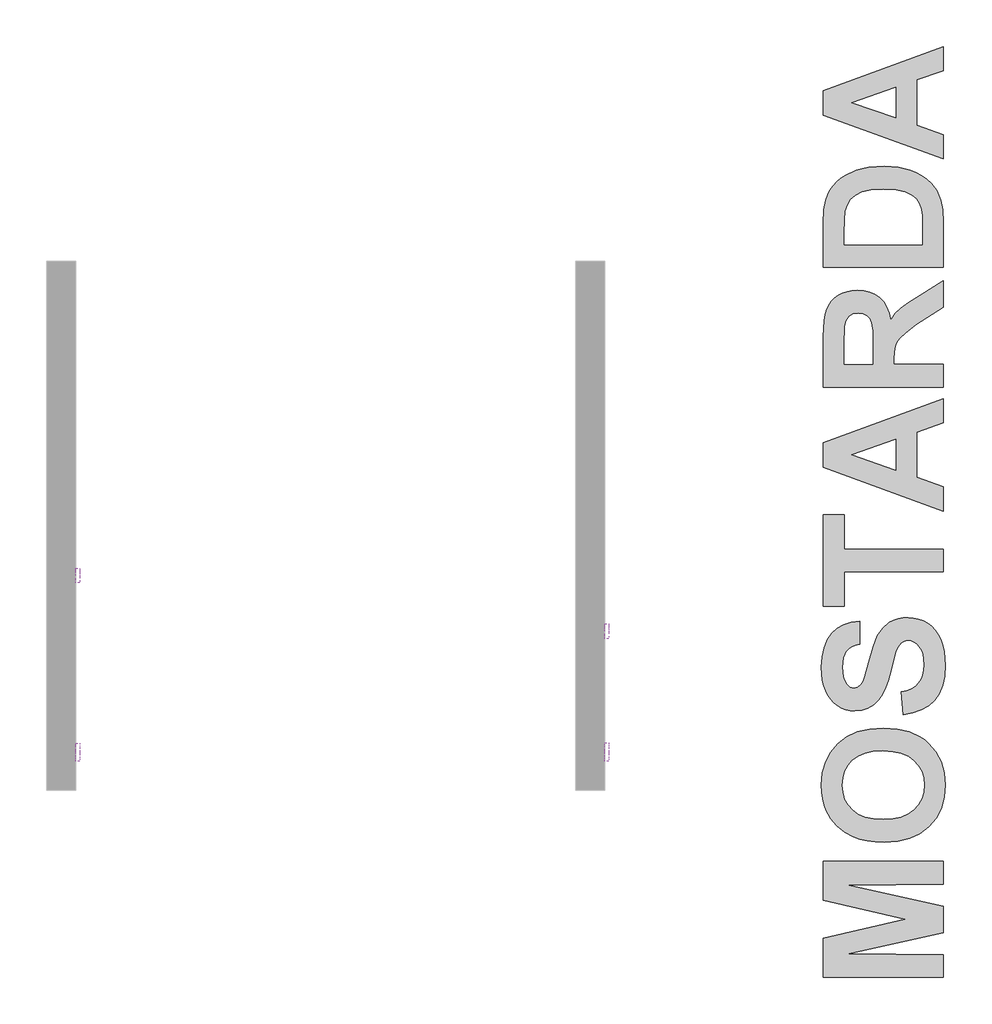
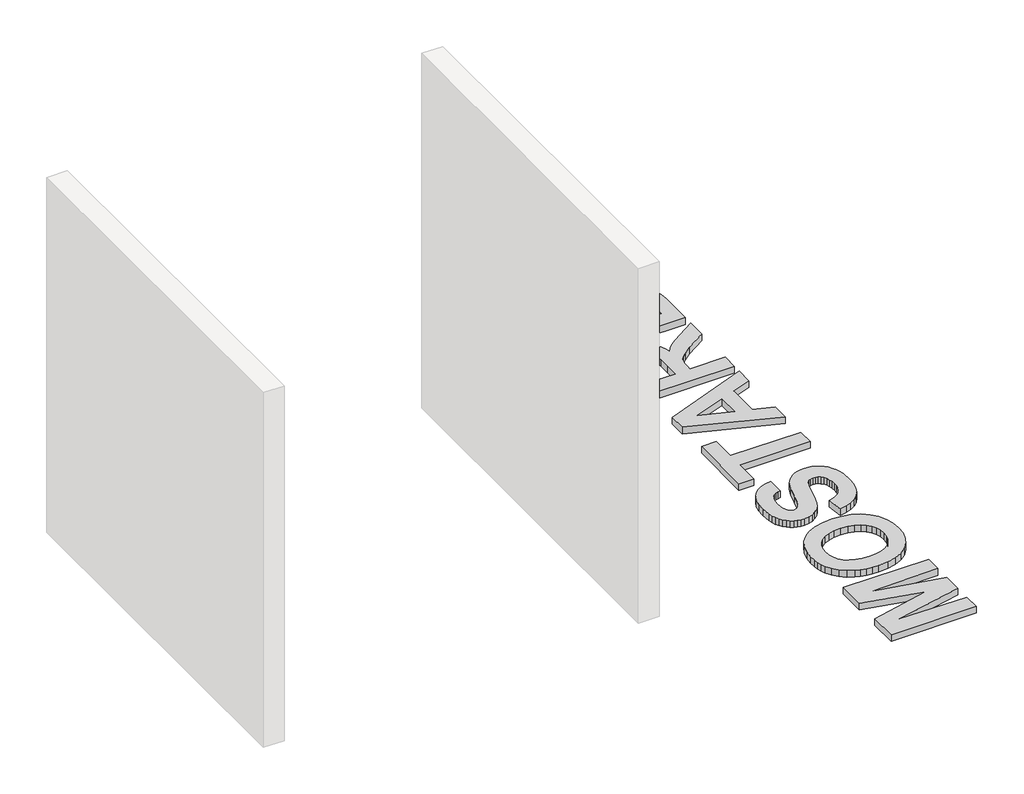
# One storey, part 8 of 9: 5 proxies.
"""IFC4 building model written with IfcOpenShell, lengths in millimetres."""

from ifc_helpers import new_model, si_unit, frame, origin, origin_with_axes, place, context, project, spatial, polyline, outline, extrude, element, save

model = new_model("IFC4")

# Units and contexts
model_context = context("Model", 3, world=origin())
ifc_project = project(units=[si_unit("LENGTHUNIT", "METRE", prefix="MILLI")], contexts=[model_context])

# Site, building, storey
site = spatial("IfcSite", under=ifc_project)
building = spatial("IfcBuilding", under=site)
storey = spatial("IfcBuildingStorey", under=building, Name="PORTOBELLO - SHOWROOM", Elevation=0.0)

# Proxies
placement = place(None, origin())
element("IfcBuildingElementProxy", 1, Name="10mm Arial", ObjectType="10mm Arial", at=placement, inside=storey, context=model_context, shape_type="SweptSolid", body=[
    extrude(outline(polyline([(3750.7905647, 2563.4128643), (3750.7905647, 2663.8691745), (3772.3975006, 2663.8691745), (3792.9498414, 2593.0641531), (3797.0946452, 2578.2752969), (3801.5828055, 2594.2904265), (3821.7917898, 2663.8691745), (3843.3987256, 2663.8691745), (3843.3987256, 2563.4128643), (3830.8416869, 2563.4128643), (3830.8416869, 2651.3121357), (3805.604982, 2563.4128643), (3788.5843084, 2563.4128643), (3763.3476035, 2651.3121357), (3763.3476035, 2563.4128643), (3750.7905647, 2563.4128643)])), frame((7985.6593854, 0.0, 0.0), z_axis=(1.0, 0.0, 0.0), x_axis=(0.0, 1.0, 0.0)), (0.0, 0.0, 1.0), 20.0),
    extrude(outline(polyline([(3860.6646539, 2600.2991657), (3863.3808493, 2618.0862602), (3871.5294355, 2630.5881167), (3881.5971395, 2636.7133519), (3893.6514062, 2638.7550969), (3906.8430414, 2636.2688278), (3917.3797949, 2628.8100203), (3924.2867793, 2616.9672858), (3926.5891075, 2601.3292353), (3922.5178801, 2578.9865355), (3910.6598171, 2566.3436576), (3893.6514062, 2561.8432345), (3880.3003554, 2564.3203066), (3869.7758647, 2571.7515229), (3862.9424566, 2583.8425778), (3860.6646539, 2600.2991657)]), holes=[polyline([(3873.2216927, 2600.3236912), (3874.6748266, 2588.9592032), (3879.0342282, 2580.8627336), (3885.5947905, 2576.0158884), (3893.6514062, 2574.4002733), (3901.6712337, 2576.0250854), (3908.2195332, 2580.8995218), (3912.5789348, 2589.1032903), (3914.0320687, 2600.7160986), (3912.5697378, 2611.7494928), (3908.182745, 2619.7355978), (3901.6252484, 2624.5824431), (3893.6514062, 2626.1980582), (3885.5947905, 2624.5885745), (3879.0342282, 2619.7601233), (3874.6748266, 2611.6820478), (3873.2216927, 2600.3236912)])]), frame((7985.6593854, 0.0, 0.0), z_axis=(1.0, 0.0, 0.0), x_axis=(0.0, 1.0, 0.0)), (0.0, 0.0, 1.0), 20.0),
    extrude(outline(polyline([(3936.0068866, 2585.3876822), (3948.5639253, 2586.957312), (3954.3764609, 2577.6376348), (3967.6937891, 2574.4002733), (3980.4960825, 2577.3678547), (3984.6654118, 2584.3330871), (3980.471557, 2589.9739444), (3967.5466363, 2593.5546625), (3948.6375017, 2599.6982918), (3940.3846823, 2606.8719907), (3937.5765164, 2617.0010083), (3939.8328593, 2626.3574737), (3945.9887514, 2633.5066472), (3953.9717907, 2637.2222553), (3964.7752586, 2638.7550969), (3980.0546241, 2636.2902876), (3989.7667088, 2629.6193607), (3994.0831909, 2618.3499089), (3981.5261521, 2616.7802791), (3976.8049998, 2623.7087233), (3965.7562772, 2626.1980582), (3953.7387987, 2623.8190879), (3950.1335552, 2618.2763326), (3951.6296086, 2614.6220381), (3956.3139727, 2611.8506604), (3967.1297034, 2609.1773845), (3985.5605913, 2603.2667471), (3994.1199791, 2596.5712948), (3997.2224506, 2585.6574623), (3993.5804188, 2573.6399838), (3983.0712565, 2564.9211805), (3967.5221108, 2561.8432345), (3954.8608388, 2563.3270252), (3945.6208694, 2567.7783973), (3939.4527146, 2575.1483), (3936.0068866, 2585.3876822)])), frame((7985.6593854, 0.0, 0.0), z_axis=(1.0, 0.0, 0.0), x_axis=(0.0, 1.0, 0.0)), (0.0, 0.0, 1.0), 20.0),
    extrude(outline(polyline([(4038.0328266, 2573.8852385), (4039.6024564, 2563.0449823), (4030.2092028, 2561.8432345), (4019.6877777, 2563.9278991), (4014.4393279, 2569.3970781), (4012.918749, 2583.6463741), (4012.918749, 2624.6284283), (4003.5009699, 2624.6284283), (4003.5009699, 2637.1854671), (4012.918749, 2637.1854671), (4012.918749, 2655.113583), (4025.4757878, 2662.4957484), (4025.4757878, 2637.1854671), (4038.0328266, 2637.1854671), (4038.0328266, 2624.6284283), (4025.4757878, 2624.6284283), (4025.4757878, 2584.0142561), (4026.1379754, 2577.539533), (4028.2839537, 2575.2464018), (4032.5636476, 2574.4002733), (4038.0328266, 2573.8852385)])), frame((7985.6593854, 0.0, 0.0), z_axis=(1.0, 0.0, 0.0), x_axis=(0.0, 1.0, 0.0)), (0.0, 0.0, 1.0), 20.0),
    extrude(outline(polyline([(4097.6787607, 2572.8306434), (4085.5018667, 2564.3203066), (4072.0496484, 2561.8432345), (4061.5558145, 2563.3331566), (4053.8149642, 2567.8029228), (4049.0416953, 2574.5903456), (4047.4506056, 2583.0332374), (4049.8541013, 2592.9660513), (4056.1694089, 2600.1765384), (4064.9617886, 2604.2968167), (4075.8265702, 2606.1852776), (4097.6051843, 2610.5017597), (4097.6787607, 2613.2976629), (4094.22067, 2622.5682892), (4080.339256, 2626.1980582), (4067.6350644, 2623.7822997), (4061.5772742, 2615.2106493), (4049.0202355, 2616.7802791), (4054.4526263, 2629.0430123), (4065.3909843, 2636.2289739), (4081.9579368, 2638.7550969), (4097.1759886, 2636.5232795), (4105.7721646, 2630.9192105), (4109.6226628, 2622.3966109), (4110.2357995, 2611.409202), (4110.2357995, 2595.7864799), (4110.8734616, 2573.9710776), (4113.3750592, 2563.4128643), (4100.8180204, 2563.4128643), (4097.6787607, 2572.8306434)]), holes=[polyline([(4097.6787607, 2597.9447209), (4077.4207255, 2594.0942227), (4066.6172576, 2592.058609), (4061.724427, 2588.7476711), (4060.0076444, 2583.9161542), (4063.747778, 2577.1226), (4074.7229242, 2574.4002733), (4087.4271158, 2577.4046429), (4095.6186215, 2584.6764437), (4097.6051843, 2594.3885283), (4097.6787607, 2597.9447209)])]), frame((7985.6593854, 0.0, 0.0), z_axis=(1.0, 0.0, 0.0), x_axis=(0.0, 1.0, 0.0)), (0.0, 0.0, 1.0), 20.0),
    extrude(outline(polyline([(4127.5017278, 2563.4128643), (4127.5017278, 2637.1854671), (4138.4891367, 2637.1854671), (4138.4891367, 2626.2716346), (4146.288235, 2636.3270758), (4154.1363842, 2638.7550969), (4166.7424739, 2634.8800733), (4162.5486192, 2623.6228842), (4153.7194513, 2626.1980582), (4146.6193288, 2623.7209861), (4142.0943803, 2616.8538555), (4140.0587666, 2602.1876266), (4140.0587666, 2563.4128643), (4127.5017278, 2563.4128643)])), frame((7985.6593854, 0.0, 0.0), z_axis=(1.0, 0.0, 0.0), x_axis=(0.0, 1.0, 0.0)), (0.0, 0.0, 1.0), 20.0),
    extrude(outline(polyline([(4220.1098887, 2563.4128643), (4220.1098887, 2575.2586646), (4211.801887, 2565.197092), (4200.3178374, 2561.8432345), (4184.7686917, 2566.6992768), (4173.7812828, 2580.249597), (4169.8817336, 2600.2255893), (4173.4747144, 2620.2138444), (4184.2413942, 2633.972631), (4200.2687864, 2638.7550969), (4211.8448065, 2635.3337944), (4220.1098887, 2626.4433128), (4220.1098887, 2663.8691745), (4232.6669275, 2663.8691745), (4232.6669275, 2563.4128643), (4220.1098887, 2563.4128643)]), holes=[polyline([(4182.4387724, 2600.2746403), (4183.8551181, 2588.9162837), (4188.1041551, 2580.8382082), (4194.2784413, 2576.009757), (4201.4705343, 2574.4002733), (4208.6595616, 2575.9361806), (4214.6774979, 2580.5439026), (4218.751791, 2588.3092784), (4220.1098887, 2599.3181471), (4218.7272655, 2611.3540197), (4214.579396, 2619.6988096), (4208.4081756, 2624.573246), (4200.9554995, 2626.1980582), (4193.6898301, 2624.6376254), (4187.7362731, 2619.956327), (4183.7631476, 2611.9150397), (4182.4387724, 2600.2746403)])]), frame((7985.6593854, 0.0, 0.0), z_axis=(1.0, 0.0, 0.0), x_axis=(0.0, 1.0, 0.0)), (0.0, 0.0, 1.0), 20.0),
    extrude(outline(polyline([(4298.591381, 2572.8306434), (4286.414487, 2564.3203066), (4272.9622687, 2561.8432345), (4262.4684348, 2563.3331566), (4254.7275845, 2567.8029228), (4249.9543156, 2574.5903456), (4248.3632259, 2583.0332374), (4250.7667216, 2592.9660513), (4257.0820292, 2600.1765384), (4265.8744089, 2604.2968167), (4276.7391905, 2606.1852776), (4298.5178046, 2610.5017597), (4298.591381, 2613.2976629), (4295.1332903, 2622.5682892), (4281.2518763, 2626.1980582), (4268.5476847, 2623.7822997), (4262.4898945, 2615.2106493), (4249.9328558, 2616.7802791), (4255.3652466, 2629.0430123), (4266.3036046, 2636.2289739), (4282.8705571, 2638.7550969), (4298.0886089, 2636.5232795), (4306.6847849, 2630.9192105), (4310.5352831, 2622.3966109), (4311.1484198, 2611.409202), (4311.1484198, 2595.7864799), (4311.7860819, 2573.9710776), (4314.2876795, 2563.4128643), (4301.7306407, 2563.4128643), (4298.591381, 2572.8306434)]), holes=[polyline([(4298.591381, 2597.9447209), (4278.3333458, 2594.0942227), (4267.5298779, 2592.058609), (4262.6370473, 2588.7476711), (4260.9202647, 2583.9161542), (4264.6603983, 2577.1226), (4275.6355445, 2574.4002733), (4288.3397361, 2577.4046429), (4296.5312418, 2584.6764437), (4298.5178046, 2594.3885283), (4298.591381, 2597.9447209)])]), frame((7985.6593854, 0.0, 0.0), z_axis=(1.0, 0.0, 0.0), x_axis=(0.0, 1.0, 0.0)), (0.0, 0.0, 1.0), 20.0),
])
element("IfcBuildingElementProxy", 2, Name="10mm Arial", ObjectType="10mm Arial", at=placement, inside=storey, context=model_context, shape_type="SweptSolid", body=[
    extrude(outline(polyline([(4375.7905647, 2563.4128643), (4375.7905647, 2663.8691745), (4413.0202226, 2663.8691745), (4428.029808, 2662.9126813), (4440.2312275, 2658.2160545), (4448.1406904, 2648.5039698), (4451.1327973, 2634.8064969), (4449.112512, 2622.966828), (4443.0516562, 2613.1014592), (4431.717825, 2606.442795), (4413.878614, 2604.2232403), (4388.3476035, 2604.2232403), (4388.3476035, 2563.4128643), (4375.7905647, 2563.4128643)]), holes=[polyline([(4388.3476035, 2616.7802791), (4414.6143779, 2616.7802791), (4433.1065796, 2621.3910668), (4437.2084638, 2626.9399535), (4438.5757586, 2634.3650385), (4435.3506597, 2644.7638362), (4426.8771111, 2650.4537444), (4414.3200724, 2651.3121357), (4388.3476035, 2651.3121357), (4388.3476035, 2616.7802791)])]), frame((7985.6593854, 0.0, 0.0), z_axis=(1.0, 0.0, 0.0), x_axis=(0.0, 1.0, 0.0)), (0.0, 0.0, 1.0), 20.0),
    extrude(outline(polyline([(4463.6898361, 2600.2991657), (4466.4060315, 2618.0862602), (4474.5546177, 2630.5881167), (4484.6223216, 2636.7133519), (4496.6765883, 2638.7550969), (4509.8682235, 2636.2688278), (4520.404977, 2628.8100203), (4527.3119615, 2616.9672858), (4529.6142896, 2601.3292353), (4525.5430622, 2578.9865355), (4513.6849992, 2566.3436576), (4496.6765883, 2561.8432345), (4483.3255376, 2564.3203066), (4472.8010469, 2571.7515229), (4465.9676388, 2583.8425778), (4463.6898361, 2600.2991657)]), holes=[polyline([(4476.2468749, 2600.3236912), (4477.7000088, 2588.9592032), (4482.0594104, 2580.8627336), (4488.6199726, 2576.0158884), (4496.6765883, 2574.4002733), (4504.6964158, 2576.0250854), (4511.2447153, 2580.8995218), (4515.604117, 2589.1032903), (4517.0572509, 2600.7160986), (4515.5949199, 2611.7494928), (4511.2079271, 2619.7355978), (4504.6504306, 2624.5824431), (4496.6765883, 2626.1980582), (4488.6199726, 2624.5885745), (4482.0594104, 2619.7601233), (4477.7000088, 2611.6820478), (4476.2468749, 2600.3236912)])]), frame((7985.6593854, 0.0, 0.0), z_axis=(1.0, 0.0, 0.0), x_axis=(0.0, 1.0, 0.0)), (0.0, 0.0, 1.0), 20.0),
    extrude(outline(polyline([(4543.7409583, 2563.4128643), (4543.7409583, 2637.1854671), (4554.7283672, 2637.1854671), (4554.7283672, 2626.2716346), (4562.5274655, 2636.3270758), (4570.3756147, 2638.7550969), (4582.9817044, 2634.8800733), (4578.7878497, 2623.6228842), (4569.9586818, 2626.1980582), (4562.8585593, 2623.7209861), (4558.3336107, 2616.8538555), (4556.297997, 2602.1876266), (4556.297997, 2563.4128643), (4543.7409583, 2563.4128643)])), frame((7985.6593854, 0.0, 0.0), z_axis=(1.0, 0.0, 0.0), x_axis=(0.0, 1.0, 0.0)), (0.0, 0.0, 1.0), 20.0),
    extrude(outline(polyline([(4617.513561, 2573.8852385), (4619.0831909, 2563.0449823), (4609.6899373, 2561.8432345), (4599.1685122, 2563.9278991), (4593.9200624, 2569.3970781), (4592.3994835, 2583.6463741), (4592.3994835, 2624.6284283), (4582.9817044, 2624.6284283), (4582.9817044, 2634.8800733), (4582.9817044, 2637.1854671), (4592.3994835, 2637.1854671), (4592.3994835, 2655.113583), (4604.9565223, 2662.4957484), (4604.9565223, 2637.1854671), (4617.513561, 2637.1854671), (4617.513561, 2624.6284283), (4604.9565223, 2624.6284283), (4604.9565223, 2584.0142561), (4605.6187098, 2577.539533), (4607.7646881, 2575.2464018), (4612.044382, 2574.4002733), (4617.513561, 2573.8852385)])), frame((7985.6593854, 0.0, 0.0), z_axis=(1.0, 0.0, 0.0), x_axis=(0.0, 1.0, 0.0)), (0.0, 0.0, 1.0), 20.0),
    extrude(outline(polyline([(4626.9313401, 2600.2991657), (4629.6475355, 2618.0862602), (4637.7961217, 2630.5881167), (4647.8638256, 2636.7133519), (4659.9180923, 2638.7550969), (4673.1097275, 2636.2688278), (4683.646481, 2628.8100203), (4690.5534655, 2616.9672858), (4692.8557936, 2601.3292353), (4688.7845662, 2578.9865355), (4676.9265032, 2566.3436576), (4659.9180923, 2561.8432345), (4646.5670416, 2564.3203066), (4636.0425508, 2571.7515229), (4629.2091428, 2583.8425778), (4626.9313401, 2600.2991657)]), holes=[polyline([(4639.4883789, 2600.3236912), (4640.9415127, 2588.9592032), (4645.3009144, 2580.8627336), (4651.8614766, 2576.0158884), (4659.9180923, 2574.4002733), (4667.9379198, 2576.0250854), (4674.4862193, 2580.8995218), (4678.845621, 2589.1032903), (4680.2987549, 2600.7160986), (4678.8364239, 2611.7494928), (4674.4494311, 2619.7355978), (4667.8919346, 2624.5824431), (4659.9180923, 2626.1980582), (4651.8614766, 2624.5885745), (4645.3009144, 2619.7601233), (4640.9415127, 2611.6820478), (4639.4883789, 2600.3236912)])]), frame((7985.6593854, 0.0, 0.0), z_axis=(1.0, 0.0, 0.0), x_axis=(0.0, 1.0, 0.0)), (0.0, 0.0, 1.0), 20.0),
    extrude(outline(polyline([(4719.539501, 2563.4128643), (4706.9824622, 2563.4128643), (4706.9824622, 2663.8691745), (4719.539501, 2663.8691745), (4719.539501, 2626.6149911), (4728.3318807, 2635.7200705), (4739.257976, 2638.7550969), (4751.8395402, 2636.0205075), (4761.6006758, 2628.3317738), (4767.5971523, 2616.3756089), (4769.7676561, 2601.4028117), (4767.5205102, 2584.6396555), (4760.7790727, 2572.1684558), (4750.8861127, 2564.4245398), (4739.1843996, 2561.8432345), (4728.019181, 2565.1725665), (4719.539501, 2575.1605627), (4719.539501, 2563.4128643)]), holes=[polyline([(4719.539501, 2600.8142005), (4722.9730663, 2583.2539666), (4729.5520227, 2576.6136966), (4738.105279, 2574.4002733), (4745.3525543, 2576.0312168), (4751.5452346, 2580.9240473), (4755.7942716, 2589.048108), (4757.2106173, 2600.3727421), (4755.8525196, 2611.8629231), (4751.7782265, 2619.8950133), (4745.7786843, 2624.622297), (4738.6448393, 2626.1980582), (4731.397564, 2624.5671147), (4725.2048837, 2619.6742841), (4720.9558467, 2611.6973762), (4719.539501, 2600.8142005)])]), frame((7985.6593854, 0.0, 0.0), z_axis=(1.0, 0.0, 0.0), x_axis=(0.0, 1.0, 0.0)), (0.0, 0.0, 1.0), 20.0),
    extrude(outline(polyline([(4835.5449568, 2585.3876822), (4847.8567409, 2583.8180523), (4843.4206972, 2574.5412947), (4836.3420345, 2567.6067191), (4826.7801683, 2563.2841056), (4814.8945142, 2561.8432345), (4800.1608403, 2564.3295036), (4788.8239434, 2571.7883111), (4781.5950622, 2583.7352789), (4779.1854352, 2599.6860291), (4781.6195877, 2616.1732738), (4788.9220453, 2628.503452), (4800.105658, 2636.1921857), (4814.1832756, 2638.7550969), (4827.8225006, 2636.1983171), (4838.7210047, 2628.5279775), (4845.8671125, 2616.2223247), (4848.2491484, 2599.7596055), (4848.175572, 2596.3750911), (4791.7424739, 2596.3750911), (4793.9160434, 2586.9757061), (4798.9652238, 2580.065656), (4806.252353, 2575.8166189), (4815.1397688, 2574.4002733), (4827.4515529, 2577.0244982), (4835.5449568, 2585.3876822)]), holes=[polyline([(4791.7424739, 2608.9321299), (4835.6921096, 2608.9321299), (4830.664389, 2620.3119463), (4823.3435373, 2624.7265302), (4814.1342247, 2626.1980582), (4798.6709182, 2621.5014314), (4793.8056788, 2616.0107926), (4791.7424739, 2608.9321299)])]), frame((7985.6593854, 0.0, 0.0), z_axis=(1.0, 0.0, 0.0), x_axis=(0.0, 1.0, 0.0)), (0.0, 0.0, 1.0), 20.0),
    extrude(outline(polyline([(8005.6593854, 4873.3632259), (8005.6593854, 4860.8061872), (7985.6593854, 4860.8061872), (7985.6593854, 4873.3632259), (8005.6593854, 4873.3632259)])), frame((0.0, 0.0, 2563.4128643), z_axis=(0.0, 0.0, 1.0), x_axis=(1.0, 0.0, 0.0)), (0.0, 0.0, 1.0), 100.4563101),
    extrude(outline(polyline([(8005.6593854, 4904.7558229), (8005.6593854, 4892.1987841), (7985.6593854, 4892.1987841), (7985.6593854, 4904.7558229), (8005.6593854, 4904.7558229)])), frame((0.0, 0.0, 2563.4128643), z_axis=(0.0, 0.0, 1.0), x_axis=(1.0, 0.0, 0.0)), (0.0, 0.0, 1.0), 100.4563101),
    extrude(outline(polyline([(4920.4521213, 2600.2991657), (4923.1683167, 2618.0862602), (4931.3169029, 2630.5881167), (4941.3846068, 2636.7133519), (4953.4388736, 2638.7550969), (4966.6305088, 2636.2688278), (4977.1672622, 2628.8100203), (4984.0742467, 2616.9672858), (4986.3765749, 2601.3292353), (4982.3053474, 2578.9865355), (4970.4472845, 2566.3436576), (4953.4388736, 2561.8432345), (4940.0878228, 2564.3203066), (4929.5633321, 2571.7515229), (4922.729924, 2583.8425778), (4920.4521213, 2600.2991657)]), holes=[polyline([(4933.0091601, 2600.3236912), (4934.462294, 2588.9592032), (4938.8216956, 2580.8627336), (4945.3822579, 2576.0158884), (4953.4388736, 2574.4002733), (4961.458701, 2576.0250854), (4968.0070006, 2580.8995218), (4972.3664022, 2589.1032903), (4973.8195361, 2600.7160986), (4972.3572052, 2611.7494928), (4967.9702124, 2619.7355978), (4961.4127158, 2624.5824431), (4953.4388736, 2626.1980582), (4945.3822579, 2624.5885745), (4938.8216956, 2619.7601233), (4934.462294, 2611.6820478), (4933.0091601, 2600.3236912)])]), frame((7985.6593854, 0.0, 0.0), z_axis=(1.0, 0.0, 0.0), x_axis=(0.0, 1.0, 0.0)), (0.0, 0.0, 1.0), 20.0),
])
element("IfcBuildingElementProxy", 3, Name="10mm Arial", ObjectType="10mm Arial", at=placement, inside=storey, context=model_context, shape_type="SweptSolid", body=[
    extrude(outline(polyline([(3749.8479764, 2559.5518294), (3749.8479764, 2660.0081396), (3771.4549122, 2660.0081396), (3792.007253, 2589.2031182), (3796.1520568, 2574.414262), (3800.6402172, 2590.4293915), (3820.8492015, 2660.0081396), (3842.4561373, 2660.0081396), (3842.4561373, 2559.5518294), (3829.8990985, 2559.5518294), (3829.8990985, 2647.4511008), (3804.6623937, 2559.5518294), (3787.64172, 2559.5518294), (3762.4050152, 2647.4511008), (3762.4050152, 2559.5518294), (3749.8479764, 2559.5518294)])), frame((5285.6593854, 0.0, 0.0), z_axis=(1.0, 0.0, 0.0), x_axis=(0.0, 1.0, 0.0)), (0.0, 0.0, 1.0), 20.0),
    extrude(outline(polyline([(5305.6593854, 3875.4183641), (5305.6593854, 3862.8613253), (5285.6593854, 3862.8613253), (5285.6593854, 3875.4183641), (5305.6593854, 3875.4183641)])), frame((0.0, 0.0, 2647.4511008), z_axis=(0.0, 0.0, 1.0), x_axis=(1.0, 0.0, 0.0)), (0.0, 0.0, 1.0), 12.5570388),
    extrude(outline(polyline([(5305.6593854, 3875.4183641), (5305.6593854, 3862.8613253), (5285.6593854, 3862.8613253), (5285.6593854, 3875.4183641), (5305.6593854, 3875.4183641)])), frame((0.0, 0.0, 2559.5518294), z_axis=(0.0, 0.0, 1.0), x_axis=(1.0, 0.0, 0.0)), (0.0, 0.0, 1.0), 73.7726028),
    extrude(outline(polyline([(3894.2539222, 2559.5518294), (3894.2539222, 2633.3244322), (3906.810961, 2633.3244322), (3906.810961, 2623.0237363), (3916.4126811, 2631.9264806), (3929.5215428, 2634.894062), (3941.3796058, 2632.5028291), (3949.4730097, 2626.2243097), (3953.2376688, 2616.9904716), (3953.8998564, 2604.8503658), (3953.8998564, 2559.5518294), (3941.3428176, 2559.5518294), (3941.3428176, 2603.1581086), (3939.8958151, 2614.2681448), (3934.7822554, 2620.141994), (3926.1615539, 2622.3370233), (3912.5376574, 2617.4074045), (3908.2426351, 2610.2643625), (3906.810961, 2598.6944737), (3906.810961, 2559.5518294), (3894.2539222, 2559.5518294)])), frame((5285.6593854, 0.0, 0.0), z_axis=(1.0, 0.0, 0.0), x_axis=(0.0, 1.0, 0.0)), (0.0, 0.0, 1.0), 20.0),
    extrude(outline(polyline([(5305.6593854, 3983.7228235), (5305.6593854, 3971.1657847), (5285.6593854, 3971.1657847), (5285.6593854, 3983.7228235), (5305.6593854, 3983.7228235)])), frame((0.0, 0.0, 2647.4511008), z_axis=(0.0, 0.0, 1.0), x_axis=(1.0, 0.0, 0.0)), (0.0, 0.0, 1.0), 12.5570388),
    extrude(outline(polyline([(5305.6593854, 3983.7228235), (5305.6593854, 3971.1657847), (5285.6593854, 3971.1657847), (5285.6593854, 3983.7228235), (5305.6593854, 3983.7228235)])), frame((0.0, 0.0, 2559.5518294), z_axis=(0.0, 0.0, 1.0), x_axis=(1.0, 0.0, 0.0)), (0.0, 0.0, 1.0), 73.7726028),
    extrude(outline(polyline([(4043.3687576, 2559.5518294), (4043.3687576, 2660.0081396), (4064.9756935, 2660.0081396), (4085.5280342, 2589.2031182), (4089.6728381, 2574.414262), (4094.1609984, 2590.4293915), (4114.3699827, 2660.0081396), (4135.9769185, 2660.0081396), (4135.9769185, 2559.5518294), (4123.4198798, 2559.5518294), (4123.4198798, 2647.4511008), (4098.1831749, 2559.5518294), (4081.1625012, 2559.5518294), (4055.9257964, 2647.4511008), (4055.9257964, 2559.5518294), (4043.3687576, 2559.5518294)])), frame((5285.6593854, 0.0, 0.0), z_axis=(1.0, 0.0, 0.0), x_axis=(0.0, 1.0, 0.0)), (0.0, 0.0, 1.0), 20.0),
    extrude(outline(polyline([(4153.2428468, 2596.4381308), (4155.9590422, 2614.2252253), (4164.1076284, 2626.7270817), (4174.1753324, 2632.852317), (4186.2295991, 2634.894062), (4199.4212343, 2632.4077929), (4209.9579878, 2624.9489854), (4216.8649722, 2613.1062509), (4219.1673004, 2597.4682004), (4215.096073, 2575.1255005), (4203.23801, 2562.4826226), (4186.2295991, 2557.9821996), (4172.8785483, 2560.4592717), (4162.3540576, 2567.890488), (4155.5206495, 2579.9815429), (4153.2428468, 2596.4381308)]), holes=[polyline([(4165.7998856, 2596.4626563), (4167.2530195, 2585.0981683), (4171.6124211, 2577.0016987), (4178.1729834, 2572.1548534), (4186.2295991, 2570.5392383), (4194.2494266, 2572.1640505), (4200.7977261, 2577.0384869), (4205.1571277, 2585.2422554), (4206.6102616, 2596.8550637), (4205.1479307, 2607.8884579), (4200.7609379, 2615.8745629), (4194.2034413, 2620.7214082), (4186.2295991, 2622.3370233), (4178.1729834, 2620.7275395), (4171.6124211, 2615.8990883), (4167.2530195, 2607.8210129), (4165.7998856, 2596.4626563)])]), frame((5285.6593854, 0.0, 0.0), z_axis=(1.0, 0.0, 0.0), x_axis=(0.0, 1.0, 0.0)), (0.0, 0.0, 1.0), 20.0),
    extrude(outline(polyline([(4228.5850794, 2581.5266473), (4241.1421182, 2583.0962771), (4246.9546537, 2573.7765999), (4260.271982, 2570.5392383), (4273.0742754, 2573.5068198), (4277.2436047, 2580.4720522), (4273.0497499, 2586.1129095), (4260.1248292, 2589.6936276), (4241.2156946, 2595.8372569), (4232.9628752, 2603.0109558), (4230.1547093, 2613.1399734), (4232.4110522, 2622.4964388), (4238.5669442, 2629.6456122), (4246.5499835, 2633.3612204), (4257.3534515, 2634.894062), (4272.632817, 2632.4292527), (4282.3449017, 2625.7583258), (4286.6613837, 2614.488874), (4274.104345, 2612.9192442), (4269.3831927, 2619.8476884), (4258.3344701, 2622.3370233), (4246.3169916, 2619.958053), (4242.7117481, 2614.4152976), (4244.2078015, 2610.7610031), (4248.8921656, 2607.9896255), (4259.7078962, 2605.3163496), (4278.1387842, 2599.4057122), (4286.6981719, 2592.7102599), (4289.8006434, 2581.7964274), (4286.1586117, 2569.7789489), (4275.6494494, 2561.0601456), (4260.1003037, 2557.9821996), (4247.4390317, 2559.4659903), (4238.1990622, 2563.9173624), (4232.0309075, 2571.2872651), (4228.5850794, 2581.5266473)])), frame((5285.6593854, 0.0, 0.0), z_axis=(1.0, 0.0, 0.0), x_axis=(0.0, 1.0, 0.0)), (0.0, 0.0, 1.0), 20.0),
    extrude(outline(polyline([(4330.6110194, 2570.0242035), (4332.1806493, 2559.1839474), (4322.7873957, 2557.9821996), (4312.2659706, 2560.0668642), (4307.0175208, 2565.5360432), (4305.4969419, 2579.7853392), (4305.4969419, 2620.7673934), (4296.0791628, 2620.7673934), (4296.0791628, 2633.3244322), (4305.4969419, 2633.3244322), (4305.4969419, 2651.2525481), (4318.0539807, 2658.6347135), (4318.0539807, 2633.3244322), (4330.6110194, 2633.3244322), (4330.6110194, 2620.7673934), (4318.0539807, 2620.7673934), (4318.0539807, 2580.1532211), (4318.7161683, 2573.678498), (4320.8621466, 2571.3853669), (4325.1418404, 2570.5392383), (4330.6110194, 2570.0242035)])), frame((5285.6593854, 0.0, 0.0), z_axis=(1.0, 0.0, 0.0), x_axis=(0.0, 1.0, 0.0)), (0.0, 0.0, 1.0), 20.0),
    extrude(outline(polyline([(4390.2569536, 2568.9696085), (4378.0800595, 2560.4592717), (4364.6278413, 2557.9821996), (4354.1340073, 2559.4721217), (4346.393157, 2563.9418879), (4341.6198881, 2570.7293107), (4340.0287985, 2579.1722025), (4342.4322942, 2589.1050164), (4348.7476018, 2596.3155035), (4357.5399815, 2600.4357818), (4368.4047631, 2602.3242427), (4390.1833772, 2606.6407248), (4390.2569536, 2609.436628), (4386.7988628, 2618.7072542), (4372.9174489, 2622.3370233), (4360.2132573, 2619.9212648), (4354.1554671, 2611.3496143), (4341.5984284, 2612.9192442), (4347.0308192, 2625.1819774), (4357.9691771, 2632.367939), (4374.5361297, 2634.894062), (4389.7541815, 2632.6622446), (4398.3503575, 2627.0581755), (4402.2008557, 2618.535576), (4402.8139924, 2607.5481671), (4402.8139924, 2591.925445), (4403.4516545, 2570.1100427), (4405.953252, 2559.5518294), (4393.3962133, 2559.5518294), (4390.2569536, 2568.9696085)]), holes=[polyline([(4390.2569536, 2594.083686), (4369.9989184, 2590.2331878), (4359.1954505, 2588.1975741), (4354.3026199, 2584.8866362), (4352.5858373, 2580.0551193), (4356.3259709, 2573.2615651), (4367.3011171, 2570.5392383), (4380.0053087, 2573.543608), (4388.1968144, 2580.8154087), (4390.1833772, 2590.5274934), (4390.2569536, 2594.083686)])]), frame((5285.6593854, 0.0, 0.0), z_axis=(1.0, 0.0, 0.0), x_axis=(0.0, 1.0, 0.0)), (0.0, 0.0, 1.0), 20.0),
    extrude(outline(polyline([(4420.0799207, 2559.5518294), (4420.0799207, 2633.3244322), (4431.0673296, 2633.3244322), (4431.0673296, 2622.4105997), (4438.8664279, 2632.4660409), (4446.7145771, 2634.894062), (4459.3206668, 2631.0190383), (4455.1268121, 2619.7618493), (4446.2976442, 2622.3370233), (4439.1975217, 2619.8599512), (4434.6725731, 2612.9928206), (4432.6369594, 2598.3265917), (4432.6369594, 2559.5518294), (4420.0799207, 2559.5518294)])), frame((5285.6593854, 0.0, 0.0), z_axis=(1.0, 0.0, 0.0), x_axis=(0.0, 1.0, 0.0)), (0.0, 0.0, 1.0), 20.0),
    extrude(outline(polyline([(4512.6880816, 2559.5518294), (4512.6880816, 2571.3976297), (4504.3800799, 2561.3360571), (4492.8960302, 2557.9821996), (4477.3468846, 2562.8382419), (4466.3594757, 2576.3885621), (4462.4599265, 2596.3645544), (4466.0529073, 2616.3528095), (4476.8195871, 2630.1115961), (4492.8469793, 2634.894062), (4504.4229994, 2631.4727595), (4512.6880816, 2622.5822779), (4512.6880816, 2660.0081396), (4525.2451204, 2660.0081396), (4525.2451204, 2559.5518294), (4512.6880816, 2559.5518294)]), holes=[polyline([(4475.0169653, 2596.4136053), (4476.433311, 2585.0552487), (4480.682348, 2576.9771733), (4486.8566342, 2572.1487221), (4494.0487272, 2570.5392383), (4501.2377545, 2572.0751457), (4507.2556908, 2576.6828677), (4511.3299839, 2584.4482434), (4512.6880816, 2595.4571121), (4511.3054584, 2607.4929848), (4507.1575889, 2615.8377747), (4500.9863685, 2620.7122111), (4493.5336924, 2622.3370233), (4486.268023, 2620.7765905), (4480.314466, 2616.0952921), (4476.3413405, 2608.0540048), (4475.0169653, 2596.4136053)])]), frame((5285.6593854, 0.0, 0.0), z_axis=(1.0, 0.0, 0.0), x_axis=(0.0, 1.0, 0.0)), (0.0, 0.0, 1.0), 20.0),
    extrude(outline(polyline([(4591.1695739, 2568.9696085), (4578.9926798, 2560.4592717), (4565.5404616, 2557.9821996), (4555.0466276, 2559.4721217), (4547.3057773, 2563.9418879), (4542.5325084, 2570.7293107), (4540.9414188, 2579.1722025), (4543.3449145, 2589.1050164), (4549.6602221, 2596.3155035), (4558.4526018, 2600.4357818), (4569.3173834, 2602.3242427), (4591.0959975, 2606.6407248), (4591.1695739, 2609.436628), (4587.7114831, 2618.7072542), (4573.8300692, 2622.3370233), (4561.1258776, 2619.9212648), (4555.0680874, 2611.3496143), (4542.5110487, 2612.9192442), (4547.9434395, 2625.1819774), (4558.8817974, 2632.367939), (4575.44875, 2634.894062), (4590.6668018, 2632.6622446), (4599.2629778, 2627.0581755), (4603.113476, 2618.535576), (4603.7266127, 2607.5481671), (4603.7266127, 2591.925445), (4604.3642748, 2570.1100427), (4606.8658723, 2559.5518294), (4594.3088336, 2559.5518294), (4591.1695739, 2568.9696085)]), holes=[polyline([(4591.1695739, 2594.083686), (4570.9115387, 2590.2331878), (4560.1080708, 2588.1975741), (4555.2152402, 2584.8866362), (4553.4984576, 2580.0551193), (4557.2385912, 2573.2615651), (4568.2137374, 2570.5392383), (4580.917929, 2573.543608), (4589.1094347, 2580.8154087), (4591.0959975, 2590.5274934), (4591.1695739, 2594.083686)])]), frame((5285.6593854, 0.0, 0.0), z_axis=(1.0, 0.0, 0.0), x_axis=(0.0, 1.0, 0.0)), (0.0, 0.0, 1.0), 20.0),
])
element("IfcBuildingElementProxy", 4, Name="10mm Arial", ObjectType="10mm Arial", at=placement, inside=storey, context=model_context, shape_type="SweptSolid", body=[
    extrude(outline(polyline([(4659.8479764, 2559.5518294), (4659.8479764, 2660.0081396), (4697.0776343, 2660.0081396), (4712.0872197, 2659.0516464), (4724.2886392, 2654.3550196), (4732.1981021, 2644.6429349), (4735.190209, 2630.9454619), (4733.1699237, 2619.1057931), (4727.1090678, 2609.2404242), (4715.7752367, 2602.5817601), (4697.9360256, 2600.3622054), (4672.4050152, 2600.3622054), (4672.4050152, 2559.5518294), (4659.8479764, 2559.5518294)]), holes=[polyline([(4672.4050152, 2612.9192442), (4698.6717896, 2612.9192442), (4717.1639912, 2617.5300319), (4721.2658755, 2623.0789186), (4722.6331702, 2630.5040036), (4719.4080714, 2640.9028013), (4710.9345228, 2646.5927095), (4698.377484, 2647.4511008), (4672.4050152, 2647.4511008), (4672.4050152, 2612.9192442)])]), frame((5285.6593854, 0.0, 0.0), z_axis=(1.0, 0.0, 0.0), x_axis=(0.0, 1.0, 0.0)), (0.0, 0.0, 1.0), 20.0),
    extrude(outline(polyline([(4747.7472478, 2596.4381308), (4750.4634432, 2614.2252253), (4758.6120294, 2626.7270817), (4768.6797333, 2632.852317), (4780.734, 2634.894062), (4793.9256352, 2632.4077929), (4804.4623887, 2624.9489854), (4811.3693731, 2613.1062509), (4813.6717013, 2597.4682004), (4809.6004739, 2575.1255005), (4797.7424109, 2562.4826226), (4780.734, 2557.9821996), (4767.3829493, 2560.4592717), (4756.8584585, 2567.890488), (4750.0250505, 2579.9815429), (4747.7472478, 2596.4381308)]), holes=[polyline([(4760.3042865, 2596.4626563), (4761.7574204, 2585.0981683), (4766.1168221, 2577.0016987), (4772.6773843, 2572.1548534), (4780.734, 2570.5392383), (4788.7538275, 2572.1640505), (4795.302127, 2577.0384869), (4799.6615287, 2585.2422554), (4801.1146625, 2596.8550637), (4799.6523316, 2607.8884579), (4795.2653388, 2615.8745629), (4788.7078422, 2620.7214082), (4780.734, 2622.3370233), (4772.6773843, 2620.7275395), (4766.1168221, 2615.8990883), (4761.7574204, 2607.8210129), (4760.3042865, 2596.4626563)])]), frame((5285.6593854, 0.0, 0.0), z_axis=(1.0, 0.0, 0.0), x_axis=(0.0, 1.0, 0.0)), (0.0, 0.0, 1.0), 20.0),
    extrude(outline(polyline([(4827.7983699, 2559.5518294), (4827.7983699, 2633.3244322), (4838.7857788, 2633.3244322), (4838.7857788, 2622.4105997), (4846.5848771, 2632.4660409), (4854.4330264, 2634.894062), (4867.0391161, 2631.0190383), (4862.8452613, 2619.7618493), (4854.0160934, 2622.3370233), (4846.9159709, 2619.8599512), (4842.3910224, 2612.9928206), (4840.3554087, 2598.3265917), (4840.3554087, 2559.5518294), (4827.7983699, 2559.5518294)])), frame((5285.6593854, 0.0, 0.0), z_axis=(1.0, 0.0, 0.0), x_axis=(0.0, 1.0, 0.0)), (0.0, 0.0, 1.0), 20.0),
    extrude(outline(polyline([(4901.5709727, 2570.0242035), (4903.1406025, 2559.1839474), (4893.7473489, 2557.9821996), (4883.2259239, 2560.0668642), (4877.9774741, 2565.5360432), (4876.4568951, 2579.7853392), (4876.4568951, 2620.7673934), (4867.0391161, 2620.7673934), (4867.0391161, 2631.0190383), (4867.0391161, 2633.3244322), (4876.4568951, 2633.3244322), (4876.4568951, 2651.2525481), (4889.0139339, 2658.6347135), (4889.0139339, 2633.3244322), (4901.5709727, 2633.3244322), (4901.5709727, 2620.7673934), (4889.0139339, 2620.7673934), (4889.0139339, 2580.1532211), (4889.6761215, 2573.678498), (4891.8220998, 2571.3853669), (4896.1017937, 2570.5392383), (4901.5709727, 2570.0242035)])), frame((5285.6593854, 0.0, 0.0), z_axis=(1.0, 0.0, 0.0), x_axis=(0.0, 1.0, 0.0)), (0.0, 0.0, 1.0), 20.0),
    extrude(outline(polyline([(4910.9887518, 2596.4381308), (4913.7049472, 2614.2252253), (4921.8535333, 2626.7270817), (4931.9212373, 2632.852317), (4943.975504, 2634.894062), (4957.1671392, 2632.4077929), (4967.7038927, 2624.9489854), (4974.6108771, 2613.1062509), (4976.9132053, 2597.4682004), (4972.8419779, 2575.1255005), (4960.9839149, 2562.4826226), (4943.975504, 2557.9821996), (4930.6244533, 2560.4592717), (4920.0999625, 2567.890488), (4913.2665544, 2579.9815429), (4910.9887518, 2596.4381308)]), holes=[polyline([(4923.5457905, 2596.4626563), (4924.9989244, 2585.0981683), (4929.3583261, 2577.0016987), (4935.9188883, 2572.1548534), (4943.975504, 2570.5392383), (4951.9953315, 2572.1640505), (4958.543631, 2577.0384869), (4962.9030326, 2585.2422554), (4964.3561665, 2596.8550637), (4962.8938356, 2607.8884579), (4958.5068428, 2615.8745629), (4951.9493462, 2620.7214082), (4943.975504, 2622.3370233), (4935.9188883, 2620.7275395), (4929.3583261, 2615.8990883), (4924.9989244, 2607.8210129), (4923.5457905, 2596.4626563)])]), frame((5285.6593854, 0.0, 0.0), z_axis=(1.0, 0.0, 0.0), x_axis=(0.0, 1.0, 0.0)), (0.0, 0.0, 1.0), 20.0),
    extrude(outline(polyline([(5003.5969127, 2559.5518294), (4991.0398739, 2559.5518294), (4991.0398739, 2660.0081396), (5003.5969127, 2660.0081396), (5003.5969127, 2622.7539562), (5012.3892924, 2631.8590356), (5023.3153876, 2634.894062), (5035.8969519, 2632.1594725), (5045.6580875, 2624.4707388), (5051.654564, 2612.514574), (5053.8250678, 2597.5417768), (5051.5779219, 2580.7786205), (5044.8364843, 2568.3074209), (5034.9435243, 2560.5635049), (5023.2418112, 2557.9821996), (5012.0765927, 2561.3115316), (5003.5969127, 2571.2995278), (5003.5969127, 2559.5518294)]), holes=[polyline([(5003.5969127, 2596.9531656), (5007.030478, 2579.3929317), (5013.6094343, 2572.7526617), (5022.1626907, 2570.5392383), (5029.409966, 2572.1701819), (5035.6026463, 2577.0630124), (5039.8516833, 2585.1870731), (5041.268029, 2596.5117072), (5039.9099313, 2608.0018882), (5035.8356382, 2616.0339784), (5029.836096, 2620.761262), (5022.702251, 2622.3370233), (5015.4549757, 2620.7060798), (5009.2622954, 2615.8132492), (5005.0132584, 2607.8363413), (5003.5969127, 2596.9531656)])]), frame((5285.6593854, 0.0, 0.0), z_axis=(1.0, 0.0, 0.0), x_axis=(0.0, 1.0, 0.0)), (0.0, 0.0, 1.0), 20.0),
    extrude(outline(polyline([(5119.6023685, 2581.5266473), (5131.9141526, 2579.9570174), (5127.4781089, 2570.6802598), (5120.3994461, 2563.7456842), (5110.83758, 2559.4230707), (5098.9519258, 2557.9821996), (5084.2182519, 2560.4684687), (5072.8813551, 2567.9272762), (5065.6524739, 2579.874244), (5063.2428468, 2595.8249941), (5065.6769994, 2612.3122389), (5072.979457, 2624.6424171), (5084.1630696, 2632.3311508), (5098.2406873, 2634.894062), (5111.8799123, 2632.3372822), (5122.7784164, 2624.6669426), (5129.9245241, 2612.3612898), (5132.3065601, 2595.8985705), (5132.2329837, 2592.5140562), (5075.7998856, 2592.5140562), (5077.9734551, 2583.1146712), (5083.0226354, 2576.2046211), (5090.3097646, 2571.955584), (5099.1971805, 2570.5392383), (5111.5089646, 2573.1634632), (5119.6023685, 2581.5266473)]), holes=[polyline([(5075.7998856, 2605.071095), (5119.7495213, 2605.071095), (5114.7218007, 2616.4509113), (5107.400949, 2620.8654953), (5098.1916364, 2622.3370233), (5082.7283298, 2617.6403965), (5077.8630905, 2612.1497577), (5075.7998856, 2605.071095)])]), frame((5285.6593854, 0.0, 0.0), z_axis=(1.0, 0.0, 0.0), x_axis=(0.0, 1.0, 0.0)), (0.0, 0.0, 1.0), 20.0),
    extrude(outline(polyline([(5305.6593854, 5157.4206376), (5305.6593854, 5144.8635988), (5285.6593854, 5144.8635988), (5285.6593854, 5157.4206376), (5305.6593854, 5157.4206376)])), frame((0.0, 0.0, 2559.5518294), z_axis=(0.0, 0.0, 1.0), x_axis=(1.0, 0.0, 0.0)), (0.0, 0.0, 1.0), 100.4563101),
    extrude(outline(polyline([(5305.6593854, 5188.8132345), (5305.6593854, 5176.2561957), (5285.6593854, 5176.2561957), (5285.6593854, 5188.8132345), (5305.6593854, 5188.8132345)])), frame((0.0, 0.0, 2559.5518294), z_axis=(0.0, 0.0, 1.0), x_axis=(1.0, 0.0, 0.0)), (0.0, 0.0, 1.0), 100.4563101),
    extrude(outline(polyline([(5204.509533, 2596.4381308), (5207.2257284, 2614.2252253), (5215.3743146, 2626.7270817), (5225.4420185, 2632.852317), (5237.4962852, 2634.894062), (5250.6879204, 2632.4077929), (5261.2246739, 2624.9489854), (5268.1316584, 2613.1062509), (5270.4339865, 2597.4682004), (5266.3627591, 2575.1255005), (5254.5046961, 2562.4826226), (5237.4962852, 2557.9821996), (5224.1452345, 2560.4592717), (5213.6207437, 2567.890488), (5206.7873357, 2579.9815429), (5204.509533, 2596.4381308)]), holes=[polyline([(5217.0665717, 2596.4626563), (5218.5197056, 2585.0981683), (5222.8791073, 2577.0016987), (5229.4396695, 2572.1548534), (5237.4962852, 2570.5392383), (5245.5161127, 2572.1640505), (5252.0644122, 2577.0384869), (5256.4238139, 2585.2422554), (5257.8769477, 2596.8550637), (5256.4146168, 2607.8884579), (5252.027624, 2615.8745629), (5245.4701275, 2620.7214082), (5237.4962852, 2622.3370233), (5229.4396695, 2620.7275395), (5222.8791073, 2615.8990883), (5218.5197056, 2607.8210129), (5217.0665717, 2596.4626563)])]), frame((5285.6593854, 0.0, 0.0), z_axis=(1.0, 0.0, 0.0), x_axis=(0.0, 1.0, 0.0)), (0.0, 0.0, 1.0), 20.0),
])
element("IfcBuildingElementProxy", 5, Name="600mm Arial", ObjectType="600mm Arial", at=placement, inside=storey, context=model_context, shape_type="SweptSolid", body=[
    extrude(outline(polyline([(9712.7850025, 2646.6476682), (9100.6293625, 2646.6476682), (9100.6293625, 2846.4484673), (9518.14623, 2943.008732), (9100.6293625, 3039.5689966), (9100.6293625, 3239.3697958), (9712.7850025, 3239.3697958), (9712.7850025, 3122.7687215), (9230.8946252, 3117.9103434), (9712.7850025, 3011.3296739), (9712.7850025, 2874.8396143), (9230.8946252, 2768.1071206), (9712.7850025, 2763.2487425), (9712.7850025, 2646.6476682)])), origin_with_axes(), (0.0, 0.0, 1.0), 50.0),
    extrude(outline(polyline([(9410.5027904, 3336.5373577), (9365.6956393, 3338.2548702), (9324.64614, 3343.407408), (9287.3542925, 3351.9949708), (9253.8200968, 3364.0175588), (9209.5822869, 3388.2525151), (9170.0889868, 3419.964819), (9137.7693857, 3457.1048422), (9115.0526725, 3497.6229564), (9104.4913935, 3526.792203), (9096.9476228, 3558.1249461), (9092.4213604, 3591.6211857), (9090.9126063, 3627.2809218), (9096.1458007, 3690.3829029), (9111.8453838, 3746.8425702), (9138.0113557, 3796.6599237), (9174.6437163, 3839.8349635), (9196.5977495, 3858.516471), (9220.5942943, 3874.7071109), (9274.7149182, 3899.6157877), (9337.0055881, 3914.5609937), (9407.466304, 3919.5427291), (9477.4478245, 3914.5989498), (9539.3636781, 3899.767612), (9593.213865, 3875.0487156), (9617.1143334, 3858.981433), (9638.9983851, 3840.4422607), (9675.531111, 3797.5518916), (9701.6259153, 3747.9812526), (9717.2827978, 3691.7303437), (9722.5017586, 3628.799165), (9717.3065204, 3565.2037548), (9701.7208055, 3508.4783949), (9675.744614, 3458.6230854), (9639.3779459, 3415.637826), (9593.9018189, 3381.0313711), (9540.5972507, 3356.3124748), (9479.4642411, 3341.481137), (9410.5027904, 3336.5373577)]), holes=[polyline([(9406.2517095, 3453.138432), (9454.6741771, 3456.2365969), (9496.8528698, 3465.5310917), (9532.7877874, 3481.0219164), (9562.4789301, 3502.709071), (9585.7270284, 3529.1692024), (9602.332813, 3558.9789579), (9612.2962837, 3592.1383373), (9615.6174406, 3628.6473406), (9612.3200062, 3665.1183879), (9602.4277032, 3698.1638991), (9585.9405314, 3727.7838741), (9562.8584909, 3753.9783131), (9533.1815818, 3775.3997751), (9496.9098039, 3790.7008194), (9454.0431573, 3799.8814459), (9404.5816421, 3802.9416548), (9355.8080807, 3799.9621026), (9313.6388771, 3791.023446), (9278.0740312, 3776.1256851), (9249.113543, 3755.2688197), (9226.6625224, 3729.4776642), (9210.626079, 3699.7770324), (9201.004213, 3666.1669246), (9197.7969244, 3628.6473406), (9201.0421691, 3591.0898006), (9210.7779034, 3557.3658245), (9227.0041271, 3527.4754124), (9249.7208403, 3501.4185643), (9278.9754881, 3480.2960064), (9314.8155155, 3465.208465), (9357.2409227, 3456.1559402), (9406.2517095, 3453.138432)])]), origin_with_axes(), (0.0, 0.0, 1.0), 50.0),
    extrude(outline(polyline([(9508.7331225, 3987.5600224), (9499.0163663, 4104.1610967), (9527.0848866, 4111.2209274), (9551.1680186, 4121.16542), (9571.2657624, 4133.9945747), (9587.3781179, 4149.7083913), (9599.7328216, 4168.3543151), (9608.5576099, 4189.979791), (9613.8524829, 4214.5848191), (9615.6174406, 4242.1693995), (9614.0564968, 4271.1583547), (9609.3736656, 4296.332724), (9601.5689469, 4317.6925074), (9590.6423407, 4335.2377048), (9577.6281501, 4348.9208713), (9563.5606784, 4358.6945616), (9548.4399255, 4364.5587758), (9532.2658914, 4366.5135138), (9512.4338402, 4363.2682691), (9495.7521435, 4353.5325349), (9481.6514602, 4335.6741997), (9469.5624491, 4308.0611524), (9443.6004911, 4206.9461583), (9430.9326498, 4160.0134667), (9416.7655434, 4120.6340349), (9401.0991718, 4088.8078628), (9383.9335351, 4064.5349504), (9357.3547909, 4039.360581), (9328.024231, 4021.3788887), (9295.9418553, 4010.5898733), (9261.1076639, 4006.9935348), (9238.1821923, 4008.6446242), (9216.0158422, 4013.5978925), (9194.6086138, 4021.8533397), (9173.9605069, 4033.4109657), (9154.8970662, 4048.0809902), (9138.2438366, 4065.6736327), (9124.000818, 4086.1888934), (9112.1680105, 4109.6267721), (9102.8687711, 4135.8069775), (9096.2264573, 4164.5492182), (9090.9126063, 4229.7198056), (9094.2242742, 4283.6316711), (9104.1592778, 4330.4362609), (9120.7176172, 4370.1335748), (9143.8992924, 4402.7236131), (9172.603577, 4428.3107547), (9205.7297449, 4446.9993791), (9243.2777959, 4458.7894861), (9285.2477301, 4463.6810757), (9285.2477301, 4347.0800014), (9263.5795536, 4341.808851), (9245.1850889, 4334.1939127), (9230.0643359, 4324.2351865), (9218.2172948, 4311.9326724), (9209.2833828, 4296.7739634), (9202.902017, 4278.2466524), (9197.7969244, 4231.0862244), (9203.2246437, 4181.4396733), (9210.0092928, 4161.1711272), (9219.5078015, 4143.9390673), (9235.8289154, 4128.6807236), (9256.8565831, 4123.5946091), (9276.7076123, 4128.2252507), (9293.4462431, 4142.1171756), (9303.1677438, 4158.0824512), (9313.0505579, 4182.4455094), (9333.3001259, 4256.364973), (9354.3657497, 4335.2566829), (9376.4182315, 4390.5017557), (9403.120333, 4429.2169561), (9438.1348158, 4458.519049), (9458.8683239, 4469.2795974), (9481.8981747, 4476.9657033), (9507.2243683, 4481.5773669), (9534.8469047, 4483.1145881), (9560.5431701, 4481.2974408), (9585.4044018, 4475.845999), (9609.4305997, 4466.7602626), (9632.6217639, 4454.0402317), (9653.9341022, 4437.9942994), (9672.3238224, 4418.9308587), (9687.7909245, 4396.8499099), (9700.3354086, 4371.7514527), (9710.0331867, 4343.5073855), (9716.9601711, 4311.9896065), (9722.5017586, 4239.1329131), (9719.0904561, 4184.6469619), (9708.8565483, 4136.8792367), (9691.8000354, 4095.8297374), (9667.9209172, 4061.498464), (9637.5038645, 4033.6481912), (9600.8335478, 4012.0416933), (9557.9099671, 3996.6789704), (9508.7331225, 3987.5600224)])), origin_with_axes(), (0.0, 0.0, 1.0), 50.0),
    extrude(outline(polyline([(9712.7850025, 4716.3167367), (9207.5136806, 4716.3167367), (9207.5136806, 4541.4151252), (9100.6293625, 4541.4151252), (9100.6293625, 5007.8194224), (9207.5136806, 5007.8194224), (9207.5136806, 4832.9178109), (9712.7850025, 4832.9178109), (9712.7850025, 4716.3167367)])), origin_with_axes(), (0.0, 0.0, 1.0), 50.0),
    extrude(outline(polyline([(9712.7850025, 5600.54155), (9712.7850025, 5478.0193274), (9576.7504158, 5430.0428437), (9576.7504158, 5198.8144112), (9712.7850025, 5151.4452248), (9712.7850025, 5027.2529348), (9100.6293625, 5250.7383271), (9100.6293625, 5374.9306172), (9712.7850025, 5600.54155)]), holes=[polyline([(9469.8660977, 5392.6940621), (9246.3807053, 5313.8972424), (9469.8660977, 5236.1631928), (9469.8660977, 5392.6940621)])]), origin_with_axes(), (0.0, 0.0, 1.0), 50.0),
    extrude(outline(polyline([(9712.7850025, 5658.8420871), (9100.6293625, 5658.8420871), (9100.6293625, 5916.3361261), (9104.7665751, 6000.2190604), (9109.9380908, 6032.1970569), (9117.1782129, 6057.5327395), (9127.0657714, 6078.446539), (9140.1795967, 6097.1588859), (9156.5196886, 6113.6697802), (9176.0860473, 6127.9792219), (9198.0341499, 6139.5368479), (9221.5194737, 6147.7922951), (9246.5420187, 6152.7455634), (9273.1017849, 6154.3966528), (9306.2089746, 6152.0101643), (9336.2986562, 6144.850699), (9363.3708294, 6132.9182567), (9387.4254944, 6116.2128375), (9407.8838209, 6094.7534194), (9424.1669787, 6068.5589804), (9436.2749679, 6037.6295207), (9444.2077884, 6001.9650401), (9468.575591, 6035.7839063), (9495.2207584, 6063.1502392), (9533.8220906, 6091.465474), (9594.0583878, 6128.1310462), (9712.7850025, 6202.9804337), (9712.7850025, 6066.7940228), (9572.9548079, 5978.1286225), (9519.2659344, 5935.2951875), (9489.9828195, 5908.5171739), (9475.5784876, 5889.1975298), (9466.5259628, 5868.7392032), (9461.7434968, 5841.5816288), (9460.1493415, 5802.1642409), (9460.1493415, 5775.4431614), (9712.7850025, 5775.4431614), (9712.7850025, 5658.8420871)]), holes=[polyline([(9353.2650234, 5775.4431614), (9353.2650234, 5871.5479531), (9351.5000658, 5947.4031767), (9346.2051928, 5988.2249395), (9336.6023048, 6008.9869147), (9321.9133023, 6024.6627752), (9302.536724, 6034.5123777), (9278.8711088, 6037.7955785), (9252.6624364, 6033.4685855), (9232.0333075, 6020.4876066), (9217.4771513, 5999.6117632), (9209.4873967, 5971.600177), (9207.5136806, 5876.8618041), (9207.5136806, 5775.4431614), (9353.2650234, 5775.4431614)])]), origin_with_axes(), (0.0, 0.0, 1.0), 50.0),
    extrude(outline(polyline([(9100.6293625, 6270.9977271), (9100.6293625, 6497.6714301), (9103.5519806, 6565.2332505), (9112.3198348, 6614.576153), (9121.823088, 6640.6330011), (9134.3912946, 6664.7540893), (9150.0244546, 6686.9394173), (9168.722568, 6707.1889854), (9190.0918404, 6725.3177576), (9213.7384775, 6741.140698), (9267.863846, 6765.8690834), (9298.916663, 6774.6701491), (9333.3950161, 6780.9566247), (9412.6283308, 6785.9858052), (9482.9229888, 6781.2792514), (9542.8935934, 6767.15959), (9574.7007875, 6754.3873695), (9603.319671, 6739.1480038), (9628.7502438, 6721.441493), (9650.9925061, 6701.2678371), (9678.852268, 6663.3876704), (9699.8799356, 6614.12068), (9709.5587358, 6566.1821524), (9712.7850025, 6504.3517), (9712.7850025, 6270.9977271), (9100.6293625, 6270.9977271)]), holes=[polyline([(9207.5136806, 6387.5988014), (9605.9006844, 6387.5988014), (9605.9006844, 6486.8919037), (9604.4583534, 6534.8683874), (9600.1313604, 6567.3587909), (9590.2438018, 6596.9455544), (9575.1562605, 6621.0286864), (9551.7942939, 6640.4052647), (9517.0834598, 6655.8723668), (9469.3347126, 6666.0066399), (9406.8590068, 6669.3847309), (9345.2562908, 6666.0066399), (9299.8228644, 6655.8723668), (9266.5733393, 6639.6840992), (9241.5223272, 6618.1440244), (9223.9866188, 6590.6448453), (9213.2830046, 6556.5792645), (9208.9560116, 6515.3210067), (9207.5136806, 6447.4175817), (9207.5136806, 6387.5988014)])]), origin_with_axes(), (0.0, 0.0, 1.0), 50.0),
    extrude(outline(polyline([(9712.7850025, 7398.1414451), (9712.7850025, 7275.6192225), (9576.7504158, 7227.6427389), (9576.7504158, 6996.4143064), (9712.7850025, 6949.04512), (9712.7850025, 6824.8528299), (9100.6293625, 7048.3382223), (9100.6293625, 7172.5305123), (9712.7850025, 7398.1414451)]), holes=[polyline([(9469.8660977, 7190.2939572), (9246.3807053, 7111.4971375), (9469.8660977, 7033.763088), (9469.8660977, 7190.2939572)])]), origin_with_axes(), (0.0, 0.0, 1.0), 50.0),
])

save(model, "model.ifc")
